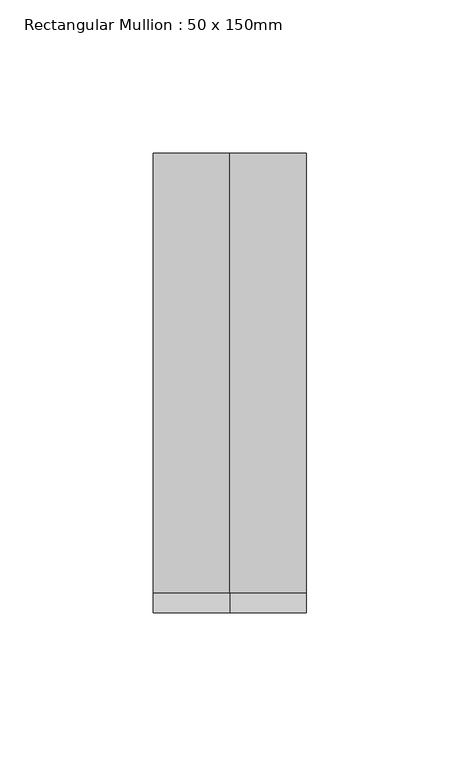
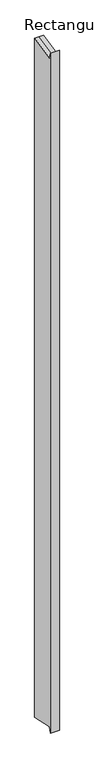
"""IFC4 building model written with IfcOpenShell, lengths in millimetres: member geometry, Rectangular Mullion : 50 x 150mm."""

from ifc_helpers import new_model, si_unit, origin, place, context, project, spatial, faceted_brep, source, transform, mapped, element, save


def rectangular_mullion_50_x_150mm_99029072(model_context):
    return source(origin(), model_context, "Body", "Brep", [
        faceted_brep([(-25.0, 75.0, 14.7937927), (0.0, 75.0, 14.7937927), (25.0, 75.0, 14.7937927), (25.0, 75.0, -3964.7937927), (0.0, 75.0, -3964.7937927), (-25.0, 75.0, -3964.7937927), (-25.0, -75.0, 17.4234614), (-25.0, -68.4846923, -14.4948974), (-25.0, -68.4846923, -3935.5051026), (-25.0, -75.0, -3967.4234614), (25.0, -75.0, 17.4234614), (0.0, -75.0, 17.4234614), (0.0, -75.0, -3967.4234614), (25.0, -75.0, -3967.4234614), (25.0, -68.4846923, -14.4948974), (25.0, -68.4846923, -3935.5051026), (0.0, -68.4846923, -14.4948974), (0.0, -68.4846923, -3935.5051026)], [[[0, 1, 2, 3, 4, 5]], [[6, 7, 0, 5, 8, 9]], [[10, 11, 6, 9, 12, 13]], [[2, 14, 10, 13, 15, 3]], [[2, 1, 16, 14]], [[1, 0, 7, 16]], [[7, 6, 11, 16]], [[11, 10, 14, 16]], [[3, 15, 17, 4]], [[15, 13, 12, 17]], [[12, 9, 8, 17]], [[8, 5, 4, 17]]]),
    ])


if __name__ == "__main__":
    model = new_model("IFC4")
    model_context = context("Model", 3, world=origin())
    ifc_project = project(units=[si_unit("LENGTHUNIT", "METRE", prefix="MILLI")], contexts=[model_context])
    site = spatial("IfcSite", under=ifc_project)
    building = spatial("IfcBuilding", under=site)
    placement = place(None, origin())
    rectangular_mullion_50_x_150mm_shape = rectangular_mullion_50_x_150mm_99029072(model_context)
    element("IfcMember", 1, ObjectType="Rectangular Mullion : 50 x 150mm", at=placement, inside=building, context=model_context, shape_type="MappedRepresentation", body=[
        mapped(rectangular_mullion_50_x_150mm_shape, transform((0.0, 0.0, 0.0), x_axis=(1.0, 0.0, 0.0), y_axis=(0.0, 1.0, 0.0), z_axis=(0.0, 0.0, 1.0))),
    ])
    save(model, "model.ifc")
